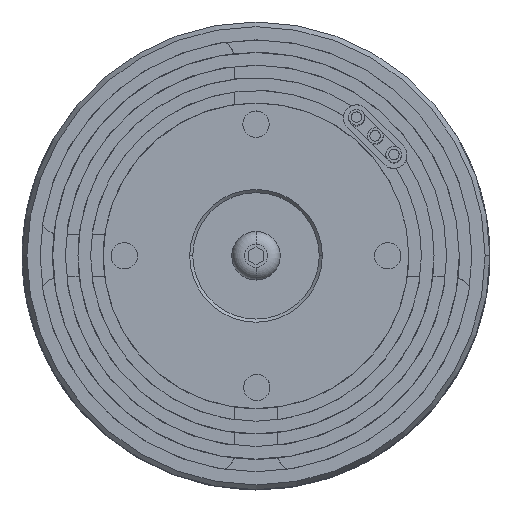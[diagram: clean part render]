
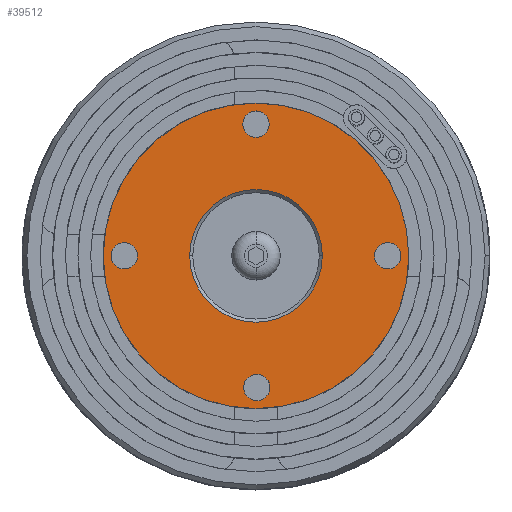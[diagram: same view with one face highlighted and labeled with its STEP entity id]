
A CAD part, top view. The second image highlights one B-rep face of the part: STEP entity #39512.
In plain terms, the highlighted planar face has unit normal (0, 0, 1).
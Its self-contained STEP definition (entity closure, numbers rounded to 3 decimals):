
#13 = AXIS2_PLACEMENT_3D ( 'NONE', #1652, #38289, #20162 ) ;
#104 = CIRCLE ( 'NONE', #6403, 1.25 ) ;
#203 = AXIS2_PLACEMENT_3D ( 'NONE', #16439, #45591, #69596 ) ;
#1450 = CIRCLE ( 'NONE', #40488, 1.25 ) ;
#1652 = CARTESIAN_POINT ( 'NONE',  ( 0., 0., 13.4 ) ) ;
#4111 = CARTESIAN_POINT ( 'NONE',  ( 0., 12.5, 13.4 ) ) ;
#4421 = FACE_BOUND ( 'NONE', #11076, .T. ) ;
#6403 = AXIS2_PLACEMENT_3D ( 'NONE', #54980, #36104, #48292 ) ;
#6578 = ORIENTED_EDGE ( 'NONE', *, *, #66271, .F. ) ;
#6641 = ORIENTED_EDGE ( 'NONE', *, *, #43272, .F. ) ;
#6730 = CARTESIAN_POINT ( 'NONE',  ( -12.5, 0., 13.4 ) ) ;
#6955 = DIRECTION ( 'NONE',  ( 0., 0., 1. ) ) ;
#9384 = DIRECTION ( 'NONE',  ( -1., 0., 0. ) ) ;
#9817 = AXIS2_PLACEMENT_3D ( 'NONE', #17584, #35302, #36860 ) ;
#11076 = EDGE_LOOP ( 'NONE', ( #36404, #75317 ) ) ;
#12779 = VERTEX_POINT ( 'NONE', #28102 ) ;
#12803 = CIRCLE ( 'NONE', #203, 14.5 ) ;
#12968 = CIRCLE ( 'NONE', #56983, 1.25 ) ;
#13875 = ORIENTED_EDGE ( 'NONE', *, *, #47192, .F. ) ;
#14289 = EDGE_LOOP ( 'NONE', ( #6578, #6641 ) ) ;
#14712 = FACE_BOUND ( 'NONE', #14289, .T. ) ;
#16439 = CARTESIAN_POINT ( 'NONE',  ( 0., 0., 13.4 ) ) ;
#16460 = EDGE_LOOP ( 'NONE', ( #67042, #24369 ) ) ;
#17010 = CARTESIAN_POINT ( 'NONE',  ( -14.5, 0., 13.4 ) ) ;
#17312 = VERTEX_POINT ( 'NONE', #56219 ) ;
#17584 = CARTESIAN_POINT ( 'NONE',  ( 0.072, -12.5, 13.4 ) ) ;
#17878 = DIRECTION ( 'NONE',  ( 1., 0., 0. ) ) ;
#18188 = CARTESIAN_POINT ( 'NONE',  ( 0., 6., 13.4 ) ) ;
#19781 = EDGE_LOOP ( 'NONE', ( #21440, #66689 ) ) ;
#20162 = DIRECTION ( 'NONE',  ( 1., 0., 0. ) ) ;
#20613 = FACE_BOUND ( 'NONE', #19781, .T. ) ;
#21440 = ORIENTED_EDGE ( 'NONE', *, *, #72156, .F. ) ;
#22536 = PLANE ( 'NONE',  #75531 ) ;
#23413 = CIRCLE ( 'NONE', #72458, 1.25 ) ;
#24369 = ORIENTED_EDGE ( 'NONE', *, *, #48256, .F. ) ;
#24731 = VERTEX_POINT ( 'NONE', #17010 ) ;
#26323 = CARTESIAN_POINT ( 'NONE',  ( -6.3, 0., 13.4 ) ) ;
#26569 = EDGE_CURVE ( 'NONE', #61891, #69038, #1450, .T. ) ;
#26593 = CIRCLE ( 'NONE', #70568, 6.3 ) ;
#27396 = CARTESIAN_POINT ( 'NONE',  ( 6.3, 0., 13.4 ) ) ;
#28102 = CARTESIAN_POINT ( 'NONE',  ( 1.25, 12.5, 13.4 ) ) ;
#28934 = DIRECTION ( 'NONE',  ( 1., 0., 0. ) ) ;
#29047 = CARTESIAN_POINT ( 'NONE',  ( 0., 0., 13.4 ) ) ;
#29247 = FACE_OUTER_BOUND ( 'NONE', #43720, .T. ) ;
#29871 = AXIS2_PLACEMENT_3D ( 'NONE', #38862, #6955, #38079 ) ;
#29983 = DIRECTION ( 'NONE',  ( 1., 0., 0. ) ) ;
#30754 = DIRECTION ( 'NONE',  ( 0., 0., 1. ) ) ;
#31525 = VERTEX_POINT ( 'NONE', #72761 ) ;
#32109 = CARTESIAN_POINT ( 'NONE',  ( -1.178, -12.5, 13.4 ) ) ;
#32623 = CARTESIAN_POINT ( 'NONE',  ( -13.75, 0., 13.4 ) ) ;
#32649 = CARTESIAN_POINT ( 'NONE',  ( 1.322, -12.5, 13.4 ) ) ;
#32670 = AXIS2_PLACEMENT_3D ( 'NONE', #76250, #69961, #39686 ) ;
#35302 = DIRECTION ( 'NONE',  ( 0., 0., 1. ) ) ;
#35979 = DIRECTION ( 'NONE',  ( 0., 0., -1. ) ) ;
#36104 = DIRECTION ( 'NONE',  ( 0., 0., 1. ) ) ;
#36404 = ORIENTED_EDGE ( 'NONE', *, *, #51830, .T. ) ;
#36860 = DIRECTION ( 'NONE',  ( 1., 0., 0. ) ) ;
#37662 = EDGE_CURVE ( 'NONE', #69038, #61891, #54008, .T. ) ;
#38079 = DIRECTION ( 'NONE',  ( 1., 0., 0. ) ) ;
#38289 = DIRECTION ( 'NONE',  ( 0., 0., -1. ) ) ;
#38862 = CARTESIAN_POINT ( 'NONE',  ( 0.072, -12.5, 13.4 ) ) ;
#39512 = ADVANCED_FACE ( 'NONE', ( #4421, #20613, #44631, #68636, #14712, #29247 ), #22536, .T. ) ;
#39686 = DIRECTION ( 'NONE',  ( 1., 0., 0. ) ) ;
#39813 = EDGE_CURVE ( 'NONE', #31525, #12779, #104, .T. ) ;
#40488 = AXIS2_PLACEMENT_3D ( 'NONE', #42026, #42412, #54601 ) ;
#40662 = DIRECTION ( 'NONE',  ( 1., 0., 0. ) ) ;
#41228 = EDGE_CURVE ( 'NONE', #24731, #17312, #12803, .T. ) ;
#42026 = CARTESIAN_POINT ( 'NONE',  ( 12.5, 0., 13.4 ) ) ;
#42412 = DIRECTION ( 'NONE',  ( 0., 0., 1. ) ) ;
#43272 = EDGE_CURVE ( 'NONE', #47000, #48422, #50509, .T. ) ;
#43720 = EDGE_LOOP ( 'NONE', ( #13875, #55678 ) ) ;
#44631 = FACE_BOUND ( 'NONE', #16460, .T. ) ;
#45591 = DIRECTION ( 'NONE',  ( 0., 0., -1. ) ) ;
#46274 = EDGE_CURVE ( 'NONE', #51095, #72080, #58811, .T. ) ;
#47000 = VERTEX_POINT ( 'NONE', #32623 ) ;
#47049 = VERTEX_POINT ( 'NONE', #26323 ) ;
#47192 = EDGE_CURVE ( 'NONE', #17312, #24731, #63871, .T. ) ;
#48256 = EDGE_CURVE ( 'NONE', #72080, #51095, #68871, .T. ) ;
#48292 = DIRECTION ( 'NONE',  ( 1., 0., 0. ) ) ;
#48422 = VERTEX_POINT ( 'NONE', #48594 ) ;
#48498 = DIRECTION ( 'NONE',  ( 1., 0., 0. ) ) ;
#48594 = CARTESIAN_POINT ( 'NONE',  ( -11.25, 0., 13.4 ) ) ;
#50509 = CIRCLE ( 'NONE', #60568, 1.25 ) ;
#51095 = VERTEX_POINT ( 'NONE', #32649 ) ;
#51830 = EDGE_CURVE ( 'NONE', #59404, #47049, #71721, .T. ) ;
#53038 = DIRECTION ( 'NONE',  ( 0., 0., -1. ) ) ;
#54008 = CIRCLE ( 'NONE', #32670, 1.25 ) ;
#54601 = DIRECTION ( 'NONE',  ( 1., 0., 0. ) ) ;
#54980 = CARTESIAN_POINT ( 'NONE',  ( 0., 12.5, 13.4 ) ) ;
#55678 = ORIENTED_EDGE ( 'NONE', *, *, #41228, .F. ) ;
#55966 = CARTESIAN_POINT ( 'NONE',  ( -12.5, 0., 13.4 ) ) ;
#56219 = CARTESIAN_POINT ( 'NONE',  ( 14.5, 0., 13.4 ) ) ;
#56282 = ORIENTED_EDGE ( 'NONE', *, *, #37662, .F. ) ;
#56983 = AXIS2_PLACEMENT_3D ( 'NONE', #6730, #30754, #29983 ) ;
#58811 = CIRCLE ( 'NONE', #9817, 1.25 ) ;
#59404 = VERTEX_POINT ( 'NONE', #27396 ) ;
#60568 = AXIS2_PLACEMENT_3D ( 'NONE', #55966, #67000, #48498 ) ;
#60601 = CARTESIAN_POINT ( 'NONE',  ( 13.75, 0., 13.4 ) ) ;
#61891 = VERTEX_POINT ( 'NONE', #73914 ) ;
#63782 = EDGE_CURVE ( 'NONE', #47049, #59404, #26593, .T. ) ;
#63871 = CIRCLE ( 'NONE', #73919, 14.5 ) ;
#65828 = DIRECTION ( 'NONE',  ( 0., 0., 1. ) ) ;
#66271 = EDGE_CURVE ( 'NONE', #48422, #47000, #12968, .T. ) ;
#66468 = EDGE_LOOP ( 'NONE', ( #56282, #68213 ) ) ;
#66689 = ORIENTED_EDGE ( 'NONE', *, *, #39813, .F. ) ;
#67000 = DIRECTION ( 'NONE',  ( 0., 0., 1. ) ) ;
#67042 = ORIENTED_EDGE ( 'NONE', *, *, #46274, .F. ) ;
#68213 = ORIENTED_EDGE ( 'NONE', *, *, #26569, .F. ) ;
#68636 = FACE_BOUND ( 'NONE', #66468, .T. ) ;
#68871 = CIRCLE ( 'NONE', #29871, 1.25 ) ;
#69038 = VERTEX_POINT ( 'NONE', #60601 ) ;
#69596 = DIRECTION ( 'NONE',  ( -1., 0., 0. ) ) ;
#69961 = DIRECTION ( 'NONE',  ( 0., 0., 1. ) ) ;
#70568 = AXIS2_PLACEMENT_3D ( 'NONE', #71803, #35979, #17878 ) ;
#71721 = CIRCLE ( 'NONE', #13, 6.3 ) ;
#71803 = CARTESIAN_POINT ( 'NONE',  ( 0., 0., 13.4 ) ) ;
#72080 = VERTEX_POINT ( 'NONE', #32109 ) ;
#72156 = EDGE_CURVE ( 'NONE', #12779, #31525, #23413, .T. ) ;
#72458 = AXIS2_PLACEMENT_3D ( 'NONE', #4111, #75774, #28934 ) ;
#72761 = CARTESIAN_POINT ( 'NONE',  ( -1.25, 12.5, 13.4 ) ) ;
#73914 = CARTESIAN_POINT ( 'NONE',  ( 11.25, 0., 13.4 ) ) ;
#73919 = AXIS2_PLACEMENT_3D ( 'NONE', #29047, #53038, #9384 ) ;
#75317 = ORIENTED_EDGE ( 'NONE', *, *, #63782, .T. ) ;
#75531 = AXIS2_PLACEMENT_3D ( 'NONE', #18188, #65828, #40662 ) ;
#75774 = DIRECTION ( 'NONE',  ( 0., 0., 1. ) ) ;
#76250 = CARTESIAN_POINT ( 'NONE',  ( 12.5, 0., 13.4 ) ) ;
